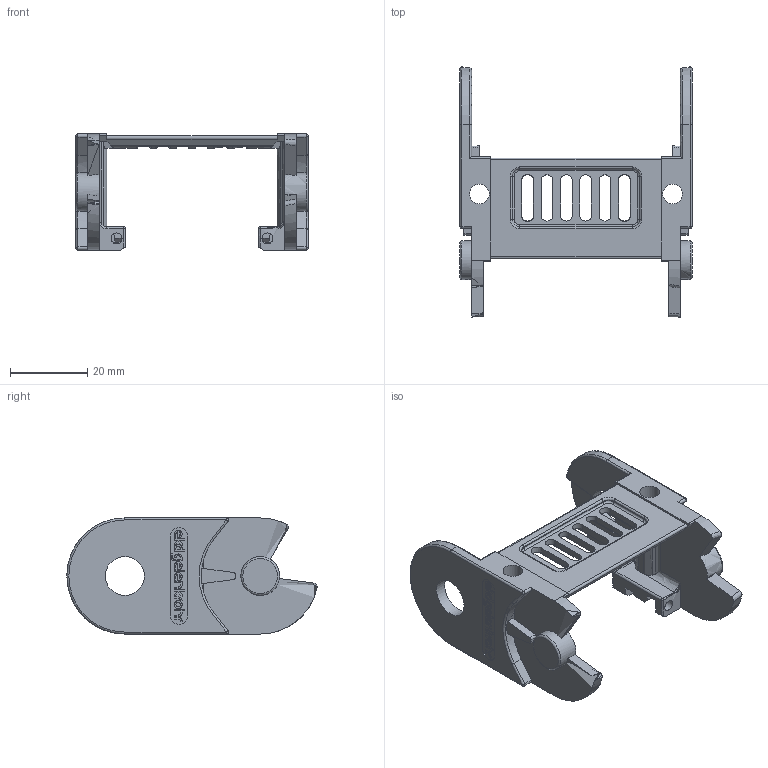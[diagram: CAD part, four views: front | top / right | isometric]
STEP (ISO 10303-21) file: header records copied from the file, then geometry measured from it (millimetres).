
FILE_DESCRIPTION((''),'2;1');
FILE_NAME('C:\Uebbing\PARAMETERKETTEN\KOLIBRI\Kol_30_060_1\Kol 30_060_1 Lasche.stp','2011-11-02T11:55:26',('Uebbing'),(''),'Autodesk Inventor 10','Autodesk Inventor 10','');
FILE_SCHEMA(('AUTOMOTIVE_DESIGN { 1 0 10303 214 1 1 1 1 }'));
Length unit declared in the file: millimetre
Products named in the file (1): Kol 30_060_1 Lasche
Bounding box: 60 x 64.71 x 30 mm (x, y, z)
Volume: 13924.5 mm3; surface area: 12671.9 mm2
Topology: 1 solids, 1 shells, 459 faces, 1260 edges, 810 vertices
Faces by surface type: plane 181, bspline 164, cylinder 90, torus 19, sphere 3, cone 2
Full cylindrical faces by diameter (mm): 1.166 x1, 2.048 x1, 2.8 x2, 5.1 x1, 10 x1, 10.1 x1
Entity records: 16736 total; most frequent: CARTESIAN_POINT 5420, ORIENTED_EDGE 2484, DIRECTION 2178, EDGE_CURVE 1242, VERTEX_POINT 814, VECTOR 774, LINE 774, AXIS2_PLACEMENT_3D 702
